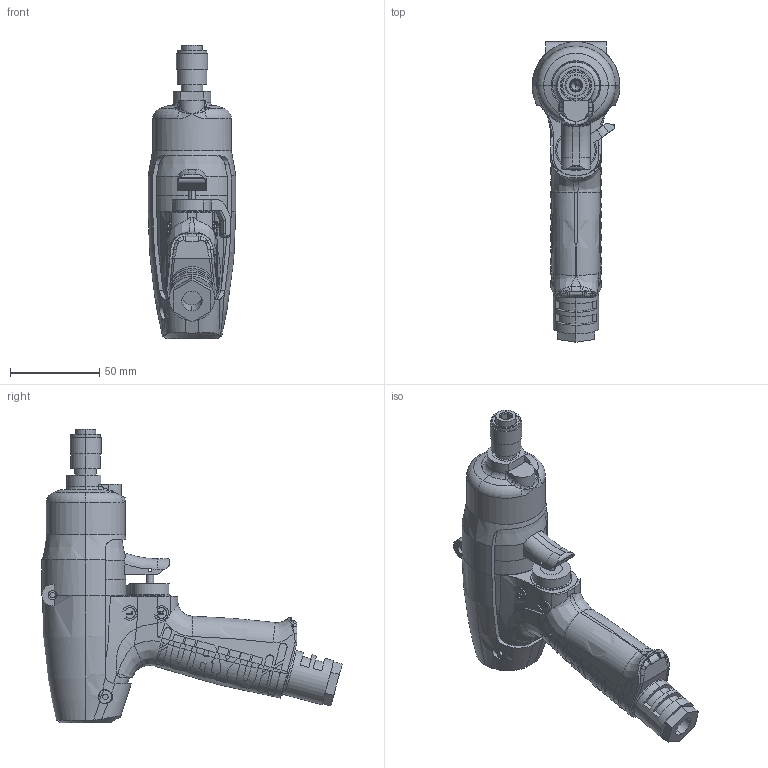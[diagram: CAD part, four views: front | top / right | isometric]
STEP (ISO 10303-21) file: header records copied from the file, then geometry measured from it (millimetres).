
FILE_DESCRIPTION (( 'STEP AP203' ), '1' );
FILE_NAME ('UAT40D.STEP', '2015-07-23T01:52:51', ( '' ), ( '' ), 'SwSTEP 2.0', 'SolidWorks 2014', '' );
FILE_SCHEMA (( 'CONFIG_CONTROL_DESIGN' ));
Length unit declared in the file: millimetre
Products named in the file (10): 1450250_UAT40D; 4802128_ULT40D; 1471072_ULT40D; 1478422_ULT40D; 1458407_ULT40D; 0113511_ULT40D; 9810020_ULT40D; 1453502_ULT40D; UAT40D; 1454390_ULT40D
Assembly tree (9 placements, depth 2):
  UAT40D
    1453502_ULT40D
    1454390_ULT40D
    1450250_UAT40D
    4802128_ULT40D
    1471072_ULT40D
    1478422_ULT40D
    1458407_ULT40D
    0113511_ULT40D
    9810020_ULT40D
Bounding box: 49 x 167.83 x 164 mm (x, y, z)
Volume: 313171.4 mm3; surface area: 92572.5 mm2
Topology: 9 solids, 9 shells, 1271 faces, 3523 edges, 2291 vertices
Faces by surface type: plane 744, cylinder 239, bspline 212, torus 46, cone 28, sphere 2
Entity records: 60432 total; most frequent: CARTESIAN_POINT 30360, ORIENTED_EDGE 7012, DIRECTION 4614, EDGE_CURVE 3506, VERTEX_POINT 2288, AXIS2_PLACEMENT_3D 1558, LINE 1498, VECTOR 1498
